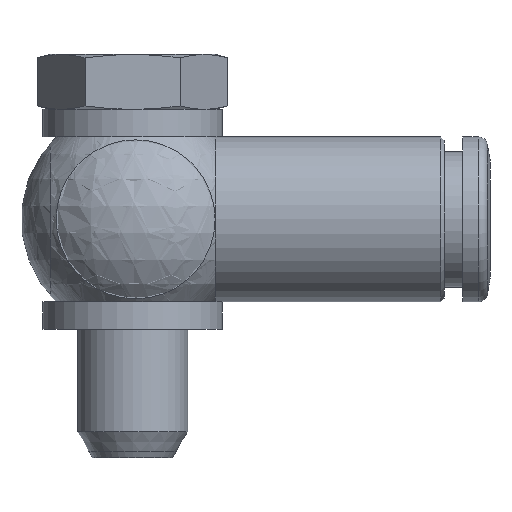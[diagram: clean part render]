
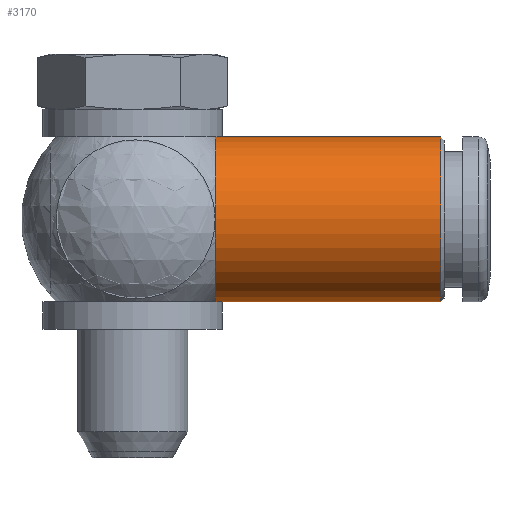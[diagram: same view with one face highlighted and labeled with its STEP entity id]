
A CAD part, front view. The second image highlights one B-rep face of the part: STEP entity #3170.
In plain terms, the highlighted cylindrical face has radius 4.5 mm (diameter 9 mm), a full revolution.
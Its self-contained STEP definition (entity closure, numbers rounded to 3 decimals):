
#3170=ADVANCED_FACE('', (#3180,#3190), #3200, .T.);
#9780=AXIS2_PLACEMENT_3D('Ax2Pl3d', #9790, #9800, #9810);
#9820=AXIS2_PLACEMENT_3D('Ax2Pl3d', #9830, #9840, #9850);
#9860=AXIS2_PLACEMENT_3D('Ax2Pl3d', #9870, #9880, #9890);
#9900=AXIS2_PLACEMENT_3D('Ax2Pl3d', #9910, #9920, #9930);
#9940=AXIS2_PLACEMENT_3D('Ax2Pl3d', #9950, #9960, #9970);
#9980=AXIS2_PLACEMENT_3D('Ax2Pl3d', #9990, #10000, #10010);
#31480=CARTESIAN_POINT('', (14.32,-9.55,11.66))
;
#31500=CARTESIAN_POINT('', (14.32,-9.55,20.66))
;
#31610=CARTESIAN_POINT('', (14.32,-5.05,16.16))
;
#31630=CARTESIAN_POINT('', (14.32,-14.05,16.16))
;
#9790=CARTESIAN_POINT('HicPkt', (14.32,-9.55,
16.16));
#9830=CARTESIAN_POINT('HicPkt', (14.32,-9.55,
16.16));
#9870=CARTESIAN_POINT('HicPkt', (14.32,-9.55,
16.16));
#9910=CARTESIAN_POINT('HicPkt', (14.32,-9.55,
16.16));
#9950=CARTESIAN_POINT('HicPkt', (26.62,-9.55,
16.16));
#9990=CARTESIAN_POINT('HicPkt', (26.62,-9.55,
16.16));
#31640=CARTESIAN_POINT('', (26.62,-9.55,11.66)
);
#32320=CIRCLE('Circle', #9780, 4.5);
#32330=CIRCLE('Circle', #9820, 4.5);
#32340=CIRCLE('Circle', #9860, 4.5);
#32350=CIRCLE('Circle', #9900, 4.5);
#32360=CIRCLE('Circle', #9980, 4.5);
#3200=CYLINDRICAL_SURFACE('Zyl', #9940, 4.5);
#9800=DIRECTION('Axis', (-1.,0.,0.))
;
#9810=DIRECTION('RefDirection', (0.,
0.,-1.));
#9840=DIRECTION('Axis', (-1.,0.,0.))
;
#9850=DIRECTION('RefDirection', (0.,
0.,-1.));
#9880=DIRECTION('Axis', (-1.,0.,0.))
;
#9890=DIRECTION('RefDirection', (0.,
0.,-1.));
#9920=DIRECTION('Axis', (-1.,0.,0.))
;
#9930=DIRECTION('RefDirection', (0.,
0.,-1.));
#9960=DIRECTION('Axis', (-1.,0.,0.))
;
#9970=DIRECTION('RefDirection', (0.,
0.,-1.));
#10000=DIRECTION('Axis', (-1.,0.,0.)
);
#10010=DIRECTION('RefDirection', (0.,
0.,-1.));
#37950=EDGE_CURVE('', #37640, #37940, #32320, .T.);
#37960=EDGE_CURVE('', #37940, #37680, #32330, .T.);
#37970=EDGE_CURVE('', #37680, #37900, #32340, .T.);
#37980=EDGE_CURVE('', #37900, #37640, #32350, .T.);
#37990=EDGE_CURVE('', #38000, #38000, #32360, .T.);
#41480=EDGE_LOOP('Edge_loop', (#41490));
#41500=EDGE_LOOP('Edge_loop', (#41510,#41520,#41530,#41540));
#3190=FACE_BOUND('', #41500, .T.);
#3180=FACE_OUTER_BOUND('Face_outer_bound', #41480, .T.);
#41490=ORIENTED_EDGE('', *, *, #37990, .T.);
#41510=ORIENTED_EDGE('', *, *, #37980, .F.);
#41520=ORIENTED_EDGE('', *, *, #37970, .F.);
#41530=ORIENTED_EDGE('', *, *, #37960, .F.);
#41540=ORIENTED_EDGE('', *, *, #37950, .F.);
#37640=VERTEX_POINT('', #31480);
#37680=VERTEX_POINT('', #31500);
#37900=VERTEX_POINT('', #31610);
#37940=VERTEX_POINT('', #31630);
#38000=VERTEX_POINT('', #31640);
